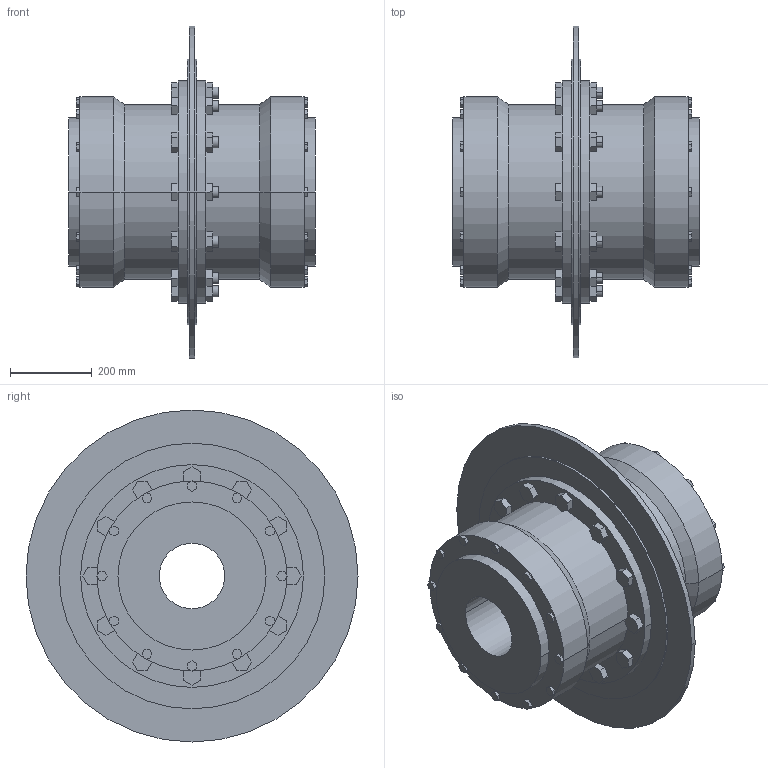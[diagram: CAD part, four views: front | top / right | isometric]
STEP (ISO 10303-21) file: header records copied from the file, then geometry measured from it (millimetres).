
FILE_DESCRIPTION((''),'2;1');
FILE_NAME('A19731100-0_ASM','2019-05-23T',('AB_Roschiwal'),('RENK AG'),'PRO/ENGINEER BY PARAMETRIC TECHNOLOGY CORPORATION, 2015440','PRO/ENGINEER BY PARAMETRIC TECHNOLOGY CORPORATION, 2015440','');
FILE_SCHEMA(('CONFIG_CONTROL_DESIGN'));
Length unit declared in the file: millimetre
Products named in the file (4): SBKT225_GEHAEUSE; SBKT225_NABE; SBKT225_BREMSSCHEIBE; A19731100-0_ASM
Assembly tree (4 placements, depth 2):
  A19731100-0_ASM
    SBKT225_GEHAEUSE
    SBKT225_NABE  x2
    SBKT225_BREMSSCHEIBE
Bounding box: 604 x 812 x 812 mm (x, y, z)
Volume: 79506659.1 mm3; surface area: 4222046.2 mm2
Topology: 4 solids, 4 shells, 470 faces, 1156 edges, 768 vertices
Faces by surface type: plane 370, cylinder 96, cone 4
Entity records: 13604 total; most frequent: CARTESIAN_POINT 2350, ORIENTED_EDGE 2264, DIRECTION 2240, EDGE_CURVE 1132, VECTOR 956, LINE 956, VERTEX_POINT 752, AXIS2_PLACEMENT_3D 642
